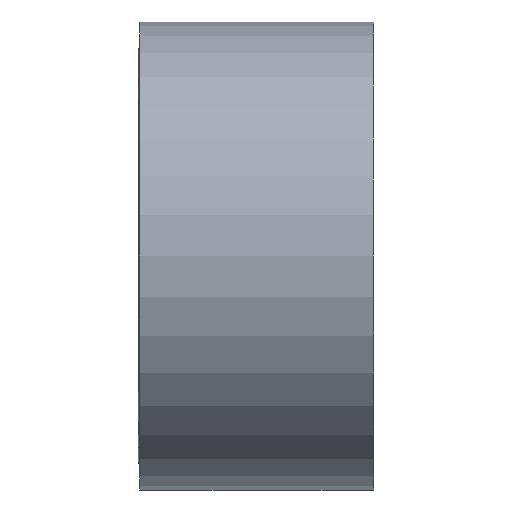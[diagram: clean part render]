
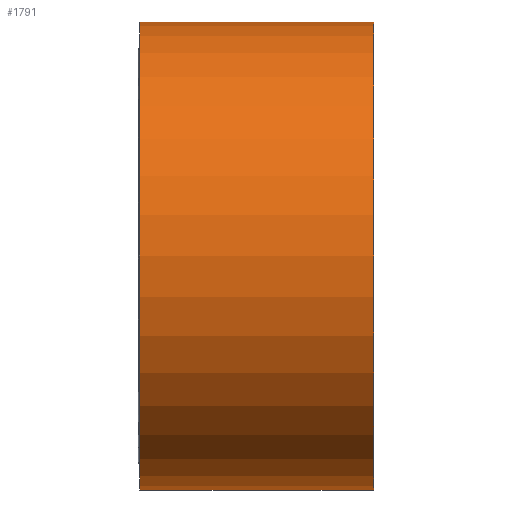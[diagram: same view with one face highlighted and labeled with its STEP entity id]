
A CAD part, left-side view. The second image highlights one B-rep face of the part: STEP entity #1791.
In plain terms, the highlighted cylindrical face has radius 44.45 mm (diameter 88.9 mm), a partial arc.
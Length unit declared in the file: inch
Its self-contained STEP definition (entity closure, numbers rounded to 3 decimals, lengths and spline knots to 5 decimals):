
#158 = VERTEX_POINT ( 'NONE', #1282 ) ;
#171 = LINE ( 'NONE', #1228, #1573 ) ;
#173 = EDGE_CURVE ( 'Defeatured_025+Defeatured_024+Defeatured_0213+Defeatured_0212', #1283, #696, #798, .T. ) ;
#228 = VERTEX_POINT ( 'NONE', #1303 ) ;
#232 = ORIENTED_EDGE ( 'NONE', *, *, #1772, .F. ) ;
#236 = CARTESIAN_POINT ( 'NONE',  ( 0., 0.563, 1.75 ) ) ;
#256 = EDGE_LOOP ( 'NONE', ( #232, #583, #802, #453, #512, #1839, #1644, #1920 ) ) ;
#268 = LINE ( 'NONE', #1376, #816 ) ;
#280 = CARTESIAN_POINT ( 'NONE',  ( 0., 0., 0. ) ) ;
#291 = DIRECTION ( 'NONE',  ( 0., 0., 1. ) ) ;
#294 = DIRECTION ( 'NONE',  ( 0., -1., 0. ) ) ;
#325 = VERTEX_POINT ( 'NONE', #542 ) ;
#415 = VECTOR ( 'NONE', #294, 39.37008 ) ;
#453 = ORIENTED_EDGE ( 'NONE', *, *, #605, .F. ) ;
#464 = CARTESIAN_POINT ( 'NONE',  ( 0., 0., 1.75 ) ) ;
#512 = ORIENTED_EDGE ( 'NONE', *, *, #1698, .T. ) ;
#542 = CARTESIAN_POINT ( 'NONE',  ( 0., 0.5, 1.75 ) ) ;
#567 = EDGE_CURVE ( 'Defeatured_026+Defeatured_025+Defeatured_025+Defeatured_025', #228, #158, #818, .T. ) ;
#583 = ORIENTED_EDGE ( 'NONE', *, *, #173, .T. ) ;
#605 = EDGE_CURVE ( 'Defeatured_0216+Defeatured_025+Defeatured_0215+Defeatured_0211', #1321, #325, #1006, .T. ) ;
#619 = CARTESIAN_POINT ( 'NONE',  ( 0., 2.28049, 1.75 ) ) ;
#627 = CARTESIAN_POINT ( 'NONE',  ( 0., 2.28049, 0. ) ) ;
#646 = AXIS2_PLACEMENT_3D ( 'NONE', #280, #1955, #1467 ) ;
#678 = LINE ( 'NONE', #619, #1630 ) ;
#696 = VERTEX_POINT ( 'NONE', #464 ) ;
#798 = CIRCLE ( 'NONE', #646, 1.75 ) ;
#802 = ORIENTED_EDGE ( 'NONE', *, *, #865, .T. ) ;
#816 = VECTOR ( 'NONE', #1677, 39.37008 ) ;
#818 = CIRCLE ( 'NONE', #969, 1.75 ) ;
#822 = DIRECTION ( 'NONE',  ( 0., 1., 0. ) ) ;
#865 = EDGE_CURVE ( 'NONE', #696, #325, #1243, .T. ) ;
#886 = DIRECTION ( 'NONE',  ( 0., 1., 0. ) ) ;
#932 = DIRECTION ( 'NONE',  ( 0., 0., 1. ) ) ;
#969 = AXIS2_PLACEMENT_3D ( 'NONE', #1032, #886, #291 ) ;
#1006 = LINE ( 'NONE', #1489, #415 ) ;
#1032 = CARTESIAN_POINT ( 'NONE',  ( 0., 1.75, 0. ) ) ;
#1065 = DIRECTION ( 'NONE',  ( 0., 1., 0. ) ) ;
#1098 = CARTESIAN_POINT ( 'NONE',  ( 0., 2.28049, 1.75 ) ) ;
#1194 = CYLINDRICAL_SURFACE ( 'NONE', #1838, 1.75 ) ;
#1213 = DIRECTION ( 'NONE',  ( 0., 1., 0. ) ) ;
#1228 = CARTESIAN_POINT ( 'NONE',  ( 0., 2.28049, -1.75 ) ) ;
#1243 = LINE ( 'NONE', #1098, #1871 ) ;
#1282 = CARTESIAN_POINT ( 'NONE',  ( 0., 1.75, 1.75 ) ) ;
#1283 = VERTEX_POINT ( 'NONE', #1877 ) ;
#1303 = CARTESIAN_POINT ( 'NONE',  ( 0., 1.75, -1.75 ) ) ;
#1321 = VERTEX_POINT ( 'NONE', #236 ) ;
#1351 = DIRECTION ( 'NONE',  ( 0., 1., 0. ) ) ;
#1374 = VERTEX_POINT ( 'NONE', #1894 ) ;
#1376 = CARTESIAN_POINT ( 'NONE',  ( 0., 2.28049, -1.75 ) ) ;
#1383 = VECTOR ( 'NONE', #1351, 39.37008 ) ;
#1455 = CARTESIAN_POINT ( 'NONE',  ( 0., 2.28049, -1.75 ) ) ;
#1467 = DIRECTION ( 'NONE',  ( 0., 0., 1. ) ) ;
#1489 = CARTESIAN_POINT ( 'NONE',  ( 0., 2.28049, 1.75 ) ) ;
#1524 = DIRECTION ( 'NONE',  ( 0., 1., 0. ) ) ;
#1529 = FACE_OUTER_BOUND ( 'NONE', #256, .T. ) ;
#1537 = EDGE_CURVE ( 'NONE', #1965, #228, #1802, .T. ) ;
#1573 = VECTOR ( 'NONE', #1524, 39.37008 ) ;
#1630 = VECTOR ( 'NONE', #1065, 39.37008 ) ;
#1644 = ORIENTED_EDGE ( 'NONE', *, *, #1537, .F. ) ;
#1677 = DIRECTION ( 'NONE',  ( 0., 1., 0. ) ) ;
#1698 = EDGE_CURVE ( 'NONE', #1321, #158, #678, .T. ) ;
#1699 = EDGE_CURVE ( 'Defeatured_020+Defeatured_025+Defeatured_0214+Defeatured_0215', #1374, #1965, #171, .T. ) ;
#1772 = EDGE_CURVE ( 'NONE', #1283, #1374, #268, .T. ) ;
#1791 = ADVANCED_FACE ( 'Defeatured_025', ( #1529 ), #1194, .T. ) ;
#1802 = LINE ( 'NONE', #1455, #1383 ) ;
#1838 = AXIS2_PLACEMENT_3D ( 'NONE', #627, #1213, #932 ) ;
#1839 = ORIENTED_EDGE ( 'NONE', *, *, #567, .F. ) ;
#1871 = VECTOR ( 'NONE', #822, 39.37008 ) ;
#1877 = CARTESIAN_POINT ( 'NONE',  ( 0., 0., -1.75 ) ) ;
#1892 = CARTESIAN_POINT ( 'NONE',  ( 0., 0.563, -1.75 ) ) ;
#1894 = CARTESIAN_POINT ( 'NONE',  ( 0., 0.5, -1.75 ) ) ;
#1920 = ORIENTED_EDGE ( 'NONE', *, *, #1699, .F. ) ;
#1955 = DIRECTION ( 'NONE',  ( 0., 1., 0. ) ) ;
#1965 = VERTEX_POINT ( 'NONE', #1892 ) ;
